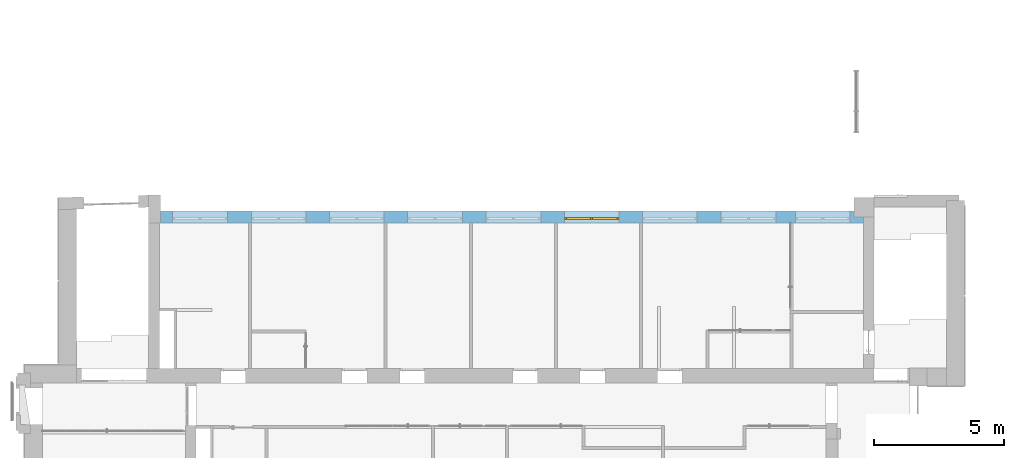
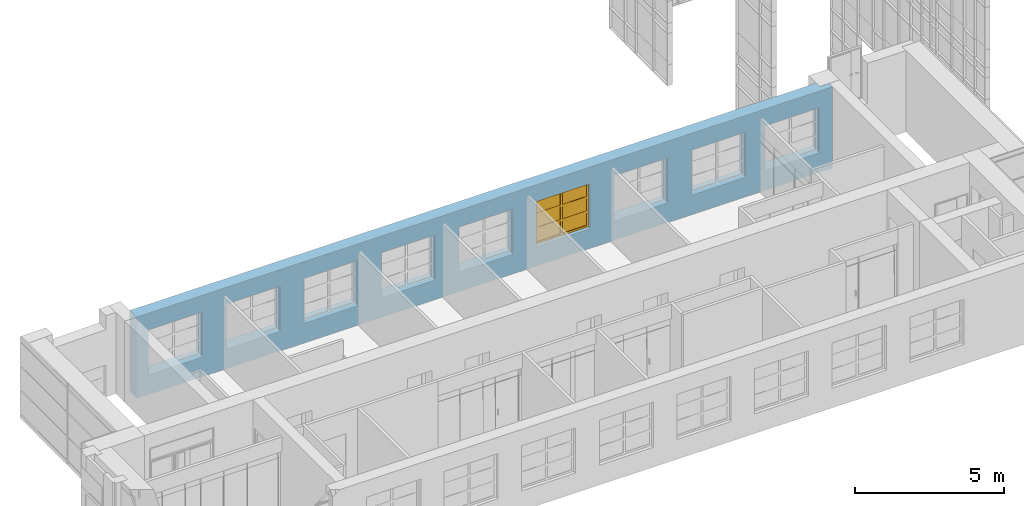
# One storey, part 64 of 73: 1 window, 9 openings, plus 1 element that does not belong to this part.
"""IFC2X3 building model written with IfcOpenShell, lengths in millimetres."""

from ifc_helpers import new_model, entity, si_unit, converted_unit, derived_unit, direction, frame, frame_2d, origin, origin_2d_with_axis, place, context, subcontext, project, spatial, polyline, rectangle, outline, extrude, face_set, surface_model, source, transform, mapped, material, material_list, layer, layer_set, layer_usage, type_object, type_shapes, element, fill, save


model = new_model("IFC2X3")

# Units and contexts
model_context = context("Model", 3, precision=0.01, world=origin(), true_north=direction((6.12303176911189e-17, 1.0)))
body_context = subcontext(model_context, "Body", "Model", "MODEL_VIEW")
ifc_project = project(units=[si_unit("LENGTHUNIT", "METRE", prefix="MILLI"), si_unit("AREAUNIT", "SQUARE_METRE"), si_unit("VOLUMEUNIT", "CUBIC_METRE"), converted_unit("PLANEANGLEUNIT", "DEGREE", entity("IfcRatioMeasure", 0.0174532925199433), si_unit("PLANEANGLEUNIT", "RADIAN"), dimensions=[0, 0, 0, 0, 0, 0, 0]), si_unit("MASSUNIT", "GRAM", prefix="KILO"), derived_unit("MASSDENSITYUNIT", [(si_unit("MASSUNIT", "GRAM", prefix="KILO"), 1), (si_unit("LENGTHUNIT", "METRE"), -3)]), si_unit("TIMEUNIT", "SECOND"), si_unit("FREQUENCYUNIT", "HERTZ"), si_unit("THERMODYNAMICTEMPERATUREUNIT", "DEGREE_CELSIUS"), derived_unit("THERMALTRANSMITTANCEUNIT", [(si_unit("MASSUNIT", "GRAM", prefix="KILO"), 1), (si_unit("THERMODYNAMICTEMPERATUREUNIT", "KELVIN"), -1), (si_unit("TIMEUNIT", "SECOND"), -3)]), derived_unit("VOLUMETRICFLOWRATEUNIT", [(si_unit("LENGTHUNIT", "METRE"), 3), (si_unit("TIMEUNIT", "SECOND"), -1)]), si_unit("ELECTRICCURRENTUNIT", "AMPERE"), si_unit("ELECTRICVOLTAGEUNIT", "VOLT"), si_unit("POWERUNIT", "WATT"), si_unit("FORCEUNIT", "NEWTON", prefix="KILO"), si_unit("ILLUMINANCEUNIT", "LUX"), si_unit("LUMINOUSFLUXUNIT", "LUMEN"), si_unit("LUMINOUSINTENSITYUNIT", "CANDELA"), derived_unit("USERDEFINED", [(si_unit("MASSUNIT", "GRAM", prefix="KILO"), -1), (si_unit("LENGTHUNIT", "METRE"), -2), (si_unit("TIMEUNIT", "SECOND"), 3), (si_unit("LUMINOUSFLUXUNIT", "LUMEN"), 1)]), derived_unit("LINEARVELOCITYUNIT", [(si_unit("LENGTHUNIT", "METRE"), 1), (si_unit("TIMEUNIT", "SECOND"), -1)]), si_unit("PRESSUREUNIT", "PASCAL"), derived_unit("USERDEFINED", [(si_unit("LENGTHUNIT", "METRE"), -2), (si_unit("MASSUNIT", "GRAM", prefix="KILO"), 1), (si_unit("TIMEUNIT", "SECOND"), -2)])], contexts=[model_context])

# Site, building, storey
site_placement = place(None, frame((-151.875543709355, 2715.0, 0.0)))
site = spatial("IfcSite", under=ifc_project, at=site_placement, Name="Surface", CompositionType="ELEMENT")
building_placement = place(site_placement, origin())
building = spatial("IfcBuilding", under=site, at=building_placement, CompositionType="ELEMENT")
storey_placement = place(building_placement, frame((0.0, 0.0, 6730.43000000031)))
storey = spatial("IfcBuildingStorey", under=building, at=storey_placement, Name="3 korrus", CompositionType="ELEMENT", Elevation=6730.43000000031)

# Wall, openings, window
ifc_material_1 = material(Name="Brick, Common")
ifc_layer_1 = layer(ifc_material_1, 440.0)
ifc_material_2 = material(Name="__Kips GN13_tava")
ifc_layer_2 = layer(ifc_material_2, 20.0)
ifc_layer_set = layer_set([ifc_layer_1, ifc_layer_2], Name="Basic Wall:VS-1")
ifc_layer_usage = layer_usage(ifc_layer_set, "AXIS2", "POSITIVE", -230.0)
wall_type = type_object("IfcWallType", Name="Basic Wall:VS-1", PredefinedType="STANDARD", material=ifc_layer_set)
wall_placement = place(storey_placement, frame((31972.6162682, 12380.0, 0.00203353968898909), z_axis=(0.0, 0.0, 1.0), x_axis=(-1.0, 0.0, 0.0)))
wall = element("IfcWallStandardCase", 1, at=wall_placement, inside=storey, type_object=wall_type, material=ifc_layer_usage, Name="SEIN - 005", ObjectType="Basic Wall:VS-1", context=body_context, shape_type="SweptSolid", body=[
    extrude(outline(polyline([(26972.5418693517, -230.0), (26972.5418693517, 230.0), (0.0, 230.0), (0.0, 0.0), (370.0, 0.0), (370.0, -230.0), (26972.5418693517, -230.0)])), origin(), (0.0, 0.0, 1.0), 3329.56796646),
])
opening_1_placement = place(wall_placement, frame((31972.6162682, 12380.0, -0.00203353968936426), z_axis=(0.0, 0.0, 1.0), x_axis=(-1.0, 0.0, 0.0)))
element("IfcOpeningElement", 2, at=opening_1_placement, cuts=wall, Name="SEIN - 005", ObjectType="Opening", context=body_context, shape_type="SweptSolid", body=[
    extrude(rectangle(XDim=1850.0, YDim=2100.0, at=frame_2d((0.0, -5.6843418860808e-13), x_axis=(1.0, 0.0))), frame((6512.84934801, 13077.9, 1725.00203353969), z_axis=(0.0, -1.0, 0.0), x_axis=(0.0, 0.0, 1.0)), (0.0, 0.0, 1.0), 1393.8),
])
opening_2_placement = place(wall_placement, frame((31972.6162682, 12380.0, -0.00203353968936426), z_axis=(0.0, 0.0, 1.0), x_axis=(-1.0, 0.0, 0.0)))
element("IfcOpeningElement", 3, at=opening_2_placement, cuts=wall, Name="SEIN - 005", ObjectType="Opening", context=body_context, shape_type="SweptSolid", body=[
    extrude(rectangle(XDim=1850.0, YDim=2100.0, at=origin_2d_with_axis()), frame((9532.84934801, 13077.9, 1725.00203353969), z_axis=(0.0, -1.0, 0.0), x_axis=(0.0, 0.0, 1.0)), (0.0, 0.0, 1.0), 1393.8),
])
opening_3_placement = place(wall_placement, frame((31972.6162682, 12380.0, -0.00203353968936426), z_axis=(0.0, 0.0, 1.0), x_axis=(-1.0, 0.0, 0.0)))
element("IfcOpeningElement", 4, at=opening_3_placement, cuts=wall, Name="SEIN - 005", ObjectType="Opening", context=body_context, shape_type="SweptSolid", body=[
    extrude(rectangle(XDim=1850.0, YDim=2100.0, at=frame_2d((0.0, -1.02318153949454e-12), x_axis=(1.0, 0.0))), frame((12532.84934801, 13077.9, 1725.00203353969), z_axis=(0.0, -1.0, 0.0), x_axis=(0.0, 0.0, 1.0)), (0.0, 0.0, 1.0), 1393.8),
])
opening_4_placement = place(wall_placement, frame((31972.6162682, 12380.0, -0.00203353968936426), z_axis=(0.0, 0.0, 1.0), x_axis=(-1.0, 0.0, 0.0)))
element("IfcOpeningElement", 5, at=opening_4_placement, cuts=wall, Name="SEIN - 005", ObjectType="Opening", context=body_context, shape_type="SweptSolid", body=[
    extrude(rectangle(XDim=1850.0, YDim=2100.0, at=origin_2d_with_axis()), frame((15532.849348, 13077.9, 1725.00203353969), z_axis=(0.0, -1.0, 0.0), x_axis=(0.0, 0.0, 1.0)), (0.0, 0.0, 1.0), 1393.8),
])
opening_5_placement = place(wall_placement, frame((31972.6162682, 12380.0, -0.00203353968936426), z_axis=(0.0, 0.0, 1.0), x_axis=(-1.0, 0.0, 0.0)))
element("IfcOpeningElement", 6, at=opening_5_placement, cuts=wall, Name="SEIN - 005", ObjectType="Opening", context=body_context, shape_type="SweptSolid", body=[
    extrude(rectangle(XDim=1850.0, YDim=2100.0, at=origin_2d_with_axis()), frame((18542.849348, 13077.9, 1725.00203353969), z_axis=(0.0, -1.0, 0.0), x_axis=(0.0, 0.0, 1.0)), (0.0, 0.0, 1.0), 1393.8),
])
opening_6_placement = place(wall_placement, frame((31972.6162682, 12380.0, -0.00203353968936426), z_axis=(0.0, 0.0, 1.0), x_axis=(-1.0, 0.0, 0.0)))
opening_6 = element("IfcOpeningElement", 7, at=opening_6_placement, cuts=wall, Name="SEIN - 005", ObjectType="Opening", context=body_context, shape_type="SweptSolid", body=[
    extrude(rectangle(XDim=1850.0, YDim=2100.0, at=origin_2d_with_axis()), frame((21543.0530903, 13077.9, 1725.00203353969), z_axis=(0.0, -1.0, 0.0), x_axis=(0.0, 0.0, 1.0)), (0.0, 0.0, 1.0), 1393.8),
])
opening_7_placement = place(wall_placement, frame((31972.6162682, 12380.0, -0.00203353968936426), z_axis=(0.0, 0.0, 1.0), x_axis=(-1.0, 0.0, 0.0)))
element("IfcOpeningElement", 8, at=opening_7_placement, cuts=wall, Name="SEIN - 005", ObjectType="Opening", context=body_context, shape_type="SweptSolid", body=[
    extrude(rectangle(XDim=1850.0, YDim=2100.0, at=origin_2d_with_axis()), frame((24543.0530903, 13077.9, 1725.00203353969), z_axis=(0.0, -1.0, 0.0), x_axis=(0.0, 0.0, 1.0)), (0.0, 0.0, 1.0), 1393.8),
])
opening_8_placement = place(wall_placement, frame((31972.6162682, 12380.0, -0.00203353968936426), z_axis=(0.0, 0.0, 1.0), x_axis=(-1.0, 0.0, 0.0)))
element("IfcOpeningElement", 9, at=opening_8_placement, cuts=wall, Name="SEIN - 005", ObjectType="Opening", context=body_context, shape_type="SweptSolid", body=[
    extrude(rectangle(XDim=1850.0, YDim=2100.0, at=origin_2d_with_axis()), frame((27563.0530903, 13077.9, 1725.00203353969), z_axis=(0.0, -1.0, 0.0), x_axis=(0.0, 0.0, 1.0)), (0.0, 0.0, 1.0), 1393.8),
])
opening_9_placement = place(wall_placement, frame((31972.6162682, 12380.0, -0.00203353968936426), z_axis=(0.0, 0.0, 1.0), x_axis=(-1.0, 0.0, 0.0)))
element("IfcOpeningElement", 10, at=opening_9_placement, cuts=wall, Name="SEIN - 005", ObjectType="Opening", context=body_context, shape_type="SweptSolid", body=[
    extrude(rectangle(XDim=1850.0, YDim=2100.0, at=origin_2d_with_axis()), frame((30412.5729235, 13077.9, 1725.00203353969), z_axis=(0.0, -1.0, 0.0), x_axis=(0.0, 0.0, 1.0)), (0.0, 0.0, 1.0), 1393.8),
])
ifc_material_3 = material(Name="Paint - Titanium White")
ifc_material_4 = material(Name="Paint - Dark Gray")
ifc_material_5 = material(Name="Glass - Clear Fast")
ifc_material_list_1 = material_list([ifc_material_3, ifc_material_4, ifc_material_5])
ifc_material_list_2 = material_list([ifc_material_3, ifc_material_4, ifc_material_5])
window_style = type_object("IfcWindowStyle", Name="Aken_1850x2100", ConstructionType="NOTDEFINED", OperationType="DOUBLE_PANEL_VERTICAL", ParameterTakesPrecedence=False, Sizeable=False, material=ifc_material_list_2)
shared_shape = source(origin(), body_context, "Body", "SurfaceModel", [
    surface_model("IfcFaceBasedSurfaceModel", [(80.0, -665.9, 1770.0), (80.0, -620.9, 1770.0), (0.0, -620.9, 1770.0), (0.0, -665.9, 1770.0), (80.0, -665.9, 80.0), (80.0, -620.9, 80.0), (80.0, -620.9, 1770.0), (80.0, -665.9, 1770.0), (80.0, -620.9, 1770.0), (80.0, -620.9, 80.0), (0.0, -620.9, 80.0), (0.0, -620.9, 1770.0), (0.0, -665.9, 1770.0), (0.0, -620.9, 1770.0), (0.0, -620.9, 80.0), (0.0, -665.9, 80.0), (80.0, -665.9, 1770.0), (0.0, -665.9, 1770.0), (0.0, -665.9, 80.0), (80.0, -665.9, 80.0), (0.0, -665.9, 80.0), (0.0, -620.9, 80.0), (80.0, -620.9, 80.0), (80.0, -665.9, 80.0), (2020.0, -665.9, 80.0), (2020.0, -620.9, 80.0), (2100.0, -620.9, 80.0), (2100.0, -665.9, 80.0), (2020.0, -665.9, 1770.0), (2020.0, -620.9, 1770.0), (2020.0, -620.9, 80.0), (2020.0, -665.9, 80.0), (2020.0, -620.9, 80.0), (2020.0, -620.9, 1770.0), (2100.0, -620.9, 1770.0), (2100.0, -620.9, 80.0), (2100.0, -665.9, 80.0), (2100.0, -620.9, 80.0), (2100.0, -620.9, 1770.0), (2100.0, -665.9, 1770.0), (2020.0, -665.9, 80.0), (2100.0, -665.9, 80.0), (2100.0, -665.9, 1770.0), (2020.0, -665.9, 1770.0), (2100.0, -665.9, 1770.0), (2100.0, -620.9, 1770.0), (2020.0, -620.9, 1770.0), (2020.0, -665.9, 1770.0), (1010.0, -665.9, 80.0), (1010.0, -620.9, 80.0), (1090.0, -620.9, 80.0), (1090.0, -665.9, 80.0), (1010.0, -665.9, 1770.0), (1010.0, -620.9, 1770.0), (1010.0, -620.9, 80.0), (1010.0, -665.9, 80.0), (1010.0, -620.9, 80.0), (1010.0, -620.9, 1770.0), (1090.0, -620.9, 1770.0), (1090.0, -620.9, 80.0), (1090.0, -665.9, 80.0), (1090.0, -620.9, 80.0), (1090.0, -620.9, 1770.0), (1090.0, -665.9, 1770.0), (1010.0, -665.9, 80.0), (1090.0, -665.9, 80.0), (1090.0, -665.9, 1770.0), (1010.0, -665.9, 1770.0), (1090.0, -665.9, 1770.0), (1090.0, -620.9, 1770.0), (1010.0, -620.9, 1770.0), (1010.0, -665.9, 1770.0), (80.0, -665.9, 80.0), (80.0, -620.9, 80.0), (0.0, -620.9, 80.0), (0.0, -665.9, 80.0), (1010.0, -665.9, 80.0), (1010.0, -620.9, 80.0), (80.0, -620.9, 80.0), (80.0, -665.9, 80.0), (80.0, -620.9, 80.0), (1010.0, -620.9, 80.0), (1090.0, -620.9, 80.0), (2020.0, -620.9, 80.0), (2100.0, -620.9, 80.0), (2100.0, -620.9, 0.0), (0.0, -620.9, 0.0), (0.0, -620.9, 80.0), (0.0, -665.9, 80.0), (0.0, -620.9, 80.0), (0.0, -620.9, 0.0), (0.0, -665.9, 0.0), (80.0, -665.9, 80.0), (0.0, -665.9, 80.0), (0.0, -665.9, 0.0), (2100.0, -665.9, 0.0), (2100.0, -665.9, 80.0), (2020.0, -665.9, 80.0), (1090.0, -665.9, 80.0), (1010.0, -665.9, 80.0), (1090.0, -665.9, 80.0), (1090.0, -620.9, 80.0), (1010.0, -620.9, 80.0), (1010.0, -665.9, 80.0), (2020.0, -665.9, 80.0), (2020.0, -620.9, 80.0), (1090.0, -620.9, 80.0), (1090.0, -665.9, 80.0), (2100.0, -665.9, 80.0), (2100.0, -620.9, 80.0), (2020.0, -620.9, 80.0), (2020.0, -665.9, 80.0), (2100.0, -665.9, 0.0), (2100.0, -620.9, 0.0), (2100.0, -620.9, 80.0), (2100.0, -665.9, 80.0), (0.0, -665.9, 0.0), (0.0, -620.9, 0.0), (2100.0, -620.9, 0.0), (2100.0, -665.9, 0.0), (1010.0, -665.9, 1770.0), (1010.0, -620.9, 1770.0), (1090.0, -620.9, 1770.0), (1090.0, -665.9, 1770.0), (80.0, -665.9, 1770.0), (80.0, -620.9, 1770.0), (1010.0, -620.9, 1770.0), (1010.0, -665.9, 1770.0), (1010.0, -620.9, 1770.0), (80.0, -620.9, 1770.0), (0.0, -620.9, 1770.0), (0.0, -620.9, 1850.0), (2100.0, -620.9, 1850.0), (2100.0, -620.9, 1770.0), (2020.0, -620.9, 1770.0), (1090.0, -620.9, 1770.0), (1090.0, -665.9, 1770.0), (1090.0, -620.9, 1770.0), (2020.0, -620.9, 1770.0), (2020.0, -665.9, 1770.0), (1010.0, -665.9, 1770.0), (1090.0, -665.9, 1770.0), (2020.0, -665.9, 1770.0), (2100.0, -665.9, 1770.0), (2100.0, -665.9, 1850.0), (0.0, -665.9, 1850.0), (0.0, -665.9, 1770.0), (80.0, -665.9, 1770.0), (0.0, -665.9, 1770.0), (0.0, -620.9, 1770.0), (80.0, -620.9, 1770.0), (80.0, -665.9, 1770.0), (0.0, -665.9, 1850.0), (0.0, -620.9, 1850.0), (0.0, -620.9, 1770.0), (0.0, -665.9, 1770.0), (2100.0, -665.9, 1850.0), (2100.0, -620.9, 1850.0), (0.0, -620.9, 1850.0), (0.0, -665.9, 1850.0), (2100.0, -665.9, 1770.0), (2100.0, -620.9, 1770.0), (2100.0, -620.9, 1850.0), (2100.0, -665.9, 1850.0), (2020.0, -665.9, 1770.0), (2020.0, -620.9, 1770.0), (2100.0, -620.9, 1770.0), (2100.0, -665.9, 1770.0), (80.0, -640.9, 590.0), (80.0, -630.9, 590.0), (1010.0, -630.9, 590.0), (1010.0, -640.9, 590.0), (80.0, -640.9, 670.0), (80.0, -630.9, 670.0), (80.0, -630.9, 590.0), (80.0, -640.9, 590.0), (80.0, -630.9, 590.0), (80.0, -630.9, 670.0), (1010.0, -630.9, 670.0), (1010.0, -630.9, 590.0), (1010.0, -640.9, 590.0), (1010.0, -630.9, 590.0), (1010.0, -630.9, 670.0), (1010.0, -640.9, 670.0), (80.0, -640.9, 590.0), (1010.0, -640.9, 590.0), (1010.0, -640.9, 670.0), (80.0, -640.9, 670.0), (1010.0, -640.9, 670.0), (1010.0, -630.9, 670.0), (80.0, -630.9, 670.0), (80.0, -640.9, 670.0), (80.0, -640.9, 1180.0), (80.0, -630.9, 1180.0), (1010.0, -630.9, 1180.0), (1010.0, -640.9, 1180.0), (80.0, -640.9, 1260.0), (80.0, -630.9, 1260.0), (80.0, -630.9, 1180.0), (80.0, -640.9, 1180.0), (80.0, -630.9, 1180.0), (80.0, -630.9, 1260.0), (1010.0, -630.9, 1260.0), (1010.0, -630.9, 1180.0), (1010.0, -640.9, 1180.0), (1010.0, -630.9, 1180.0), (1010.0, -630.9, 1260.0), (1010.0, -640.9, 1260.0), (80.0, -640.9, 1180.0), (1010.0, -640.9, 1180.0), (1010.0, -640.9, 1260.0), (80.0, -640.9, 1260.0), (1010.0, -640.9, 1260.0), (1010.0, -630.9, 1260.0), (80.0, -630.9, 1260.0), (80.0, -640.9, 1260.0), (1090.0, -640.9, 590.0), (1090.0, -630.9, 590.0), (2020.0, -630.9, 590.0), (2020.0, -640.9, 590.0), (1090.0, -640.9, 670.0), (1090.0, -630.9, 670.0), (1090.0, -630.9, 590.0), (1090.0, -640.9, 590.0), (1090.0, -630.9, 590.0), (1090.0, -630.9, 670.0), (2020.0, -630.9, 670.0), (2020.0, -630.9, 590.0), (2020.0, -640.9, 590.0), (2020.0, -630.9, 590.0), (2020.0, -630.9, 670.0), (2020.0, -640.9, 670.0), (1090.0, -640.9, 590.0), (2020.0, -640.9, 590.0), (2020.0, -640.9, 670.0), (1090.0, -640.9, 670.0), (2020.0, -640.9, 670.0), (2020.0, -630.9, 670.0), (1090.0, -630.9, 670.0), (1090.0, -640.9, 670.0), (1090.0, -640.9, 1180.0), (1090.0, -630.9, 1180.0), (2020.0, -630.9, 1180.0), (2020.0, -640.9, 1180.0), (1090.0, -640.9, 1260.0), (1090.0, -630.9, 1260.0), (1090.0, -630.9, 1180.0), (1090.0, -640.9, 1180.0), (1090.0, -630.9, 1180.0), (1090.0, -630.9, 1260.0), (2020.0, -630.9, 1260.0), (2020.0, -630.9, 1180.0), (2020.0, -640.9, 1180.0), (2020.0, -630.9, 1180.0), (2020.0, -630.9, 1260.0), (2020.0, -640.9, 1260.0), (1090.0, -640.9, 1180.0), (2020.0, -640.9, 1180.0), (2020.0, -640.9, 1260.0), (1090.0, -640.9, 1260.0), (2020.0, -640.9, 1260.0), (2020.0, -630.9, 1260.0), (1090.0, -630.9, 1260.0), (1090.0, -640.9, 1260.0)], [face_set([[[0, 1, 2, 3]]]), face_set([[[4, 5, 6, 7]]]), face_set([[[8, 9, 10, 11]]]), face_set([[[12, 13, 14, 15]]]), face_set([[[16, 17, 18, 19]]]), face_set([[[20, 21, 22, 23]]]), face_set([[[24, 25, 26, 27]]]), face_set([[[28, 29, 30, 31]]]), face_set([[[32, 33, 34, 35]]]), face_set([[[36, 37, 38, 39]]]), face_set([[[40, 41, 42, 43]]]), face_set([[[44, 45, 46, 47]]]), face_set([[[48, 49, 50, 51]]]), face_set([[[52, 53, 54, 55]]]), face_set([[[56, 57, 58, 59]]]), face_set([[[60, 61, 62, 63]]]), face_set([[[64, 65, 66, 67]]]), face_set([[[68, 69, 70, 71]]]), face_set([[[72, 73, 74, 75]]]), face_set([[[76, 77, 78, 79]]]), face_set([[[80, 81, 82, 83, 84, 85, 86, 87]]]), face_set([[[88, 89, 90, 91]]]), face_set([[[92, 93, 94, 95, 96, 97, 98, 99]]]), face_set([[[100, 101, 102, 103]]]), face_set([[[104, 105, 106, 107]]]), face_set([[[108, 109, 110, 111]]]), face_set([[[112, 113, 114, 115]]]), face_set([[[116, 117, 118, 119]]]), face_set([[[120, 121, 122, 123]]]), face_set([[[124, 125, 126, 127]]]), face_set([[[128, 129, 130, 131, 132, 133, 134, 135]]]), face_set([[[136, 137, 138, 139]]]), face_set([[[140, 141, 142, 143, 144, 145, 146, 147]]]), face_set([[[148, 149, 150, 151]]]), face_set([[[152, 153, 154, 155]]]), face_set([[[156, 157, 158, 159]]]), face_set([[[160, 161, 162, 163]]]), face_set([[[164, 165, 166, 167]]]), face_set([[[168, 169, 170, 171]]]), face_set([[[172, 173, 174, 175]]]), face_set([[[176, 177, 178, 179]]]), face_set([[[180, 181, 182, 183]]]), face_set([[[184, 185, 186, 187]]]), face_set([[[188, 189, 190, 191]]]), face_set([[[192, 193, 194, 195]]]), face_set([[[196, 197, 198, 199]]]), face_set([[[200, 201, 202, 203]]]), face_set([[[204, 205, 206, 207]]]), face_set([[[208, 209, 210, 211]]]), face_set([[[212, 213, 214, 215]]]), face_set([[[216, 217, 218, 219]]]), face_set([[[220, 221, 222, 223]]]), face_set([[[224, 225, 226, 227]]]), face_set([[[228, 229, 230, 231]]]), face_set([[[232, 233, 234, 235]]]), face_set([[[236, 237, 238, 239]]]), face_set([[[240, 241, 242, 243]]]), face_set([[[244, 245, 246, 247]]]), face_set([[[248, 249, 250, 251]]]), face_set([[[252, 253, 254, 255]]]), face_set([[[256, 257, 258, 259]]]), face_set([[[260, 261, 262, 263]]])]),
    surface_model("IfcFaceBasedSurfaceModel", [(80.0, -620.9, 1770.0), (80.0, -595.9, 1770.0), (0.0, -595.9, 1770.0), (0.0, -620.9, 1770.0), (80.0, -620.9, 80.0), (80.0, -595.9, 80.0), (80.0, -595.9, 1770.0), (80.0, -620.9, 1770.0), (80.0, -595.9, 1770.0), (80.0, -595.9, 80.0), (0.0, -595.9, 80.0), (0.0, -595.9, 1770.0), (0.0, -620.9, 1770.0), (0.0, -595.9, 1770.0), (0.0, -595.9, 80.0), (0.0, -620.9, 80.0), (80.0, -620.9, 1770.0), (0.0, -620.9, 1770.0), (0.0, -620.9, 80.0), (80.0, -620.9, 80.0), (0.0, -620.9, 80.0), (0.0, -595.9, 80.0), (80.0, -595.9, 80.0), (80.0, -620.9, 80.0), (2020.0, -620.9, 80.0), (2020.0, -595.9, 80.0), (2100.0, -595.9, 80.0), (2100.0, -620.9, 80.0), (2020.0, -620.9, 1770.0), (2020.0, -595.9, 1770.0), (2020.0, -595.9, 80.0), (2020.0, -620.9, 80.0), (2020.0, -595.9, 80.0), (2020.0, -595.9, 1770.0), (2100.0, -595.9, 1770.0), (2100.0, -595.9, 80.0), (2100.0, -620.9, 80.0), (2100.0, -595.9, 80.0), (2100.0, -595.9, 1770.0), (2100.0, -620.9, 1770.0), (2020.0, -620.9, 80.0), (2100.0, -620.9, 80.0), (2100.0, -620.9, 1770.0), (2020.0, -620.9, 1770.0), (2100.0, -620.9, 1770.0), (2100.0, -595.9, 1770.0), (2020.0, -595.9, 1770.0), (2020.0, -620.9, 1770.0), (1010.0, -620.9, 80.0), (1010.0, -595.9, 80.0), (1090.0, -595.9, 80.0), (1090.0, -620.9, 80.0), (1010.0, -620.9, 1770.0), (1010.0, -595.9, 1770.0), (1010.0, -595.9, 80.0), (1010.0, -620.9, 80.0), (1010.0, -595.9, 80.0), (1010.0, -595.9, 1770.0), (1090.0, -595.9, 1770.0), (1090.0, -595.9, 80.0), (1090.0, -620.9, 80.0), (1090.0, -595.9, 80.0), (1090.0, -595.9, 1770.0), (1090.0, -620.9, 1770.0), (1010.0, -620.9, 80.0), (1090.0, -620.9, 80.0), (1090.0, -620.9, 1770.0), (1010.0, -620.9, 1770.0), (1090.0, -620.9, 1770.0), (1090.0, -595.9, 1770.0), (1010.0, -595.9, 1770.0), (1010.0, -620.9, 1770.0), (80.0, -620.9, 80.0), (80.0, -595.9, 80.0), (0.0, -595.9, 80.0), (0.0, -620.9, 80.0), (1010.0, -620.9, 80.0), (1010.0, -595.9, 80.0), (80.0, -595.9, 80.0), (80.0, -620.9, 80.0), (80.0, -595.9, 80.0), (1010.0, -595.9, 80.0), (1090.0, -595.9, 80.0), (2020.0, -595.9, 80.0), (2100.0, -595.9, 80.0), (2100.0, -595.9, 0.0), (0.0, -595.9, 0.0), (0.0, -595.9, 80.0), (0.0, -620.9, 80.0), (0.0, -595.9, 80.0), (0.0, -595.9, 0.0), (0.0, -620.9, 0.0), (80.0, -620.9, 80.0), (0.0, -620.9, 80.0), (0.0, -620.9, 0.0), (2100.0, -620.9, 0.0), (2100.0, -620.9, 80.0), (2020.0, -620.9, 80.0), (1090.0, -620.9, 80.0), (1010.0, -620.9, 80.0), (1090.0, -620.9, 80.0), (1090.0, -595.9, 80.0), (1010.0, -595.9, 80.0), (1010.0, -620.9, 80.0), (2020.0, -620.9, 80.0), (2020.0, -595.9, 80.0), (1090.0, -595.9, 80.0), (1090.0, -620.9, 80.0), (2100.0, -620.9, 80.0), (2100.0, -595.9, 80.0), (2020.0, -595.9, 80.0), (2020.0, -620.9, 80.0), (2100.0, -620.9, 0.0), (2100.0, -595.9, 0.0), (2100.0, -595.9, 80.0), (2100.0, -620.9, 80.0), (0.0, -620.9, 0.0), (0.0, -595.9, 0.0), (2100.0, -595.9, 0.0), (2100.0, -620.9, 0.0), (1010.0, -620.9, 1770.0), (1010.0, -595.9, 1770.0), (1090.0, -595.9, 1770.0), (1090.0, -620.9, 1770.0), (80.0, -620.9, 1770.0), (80.0, -595.9, 1770.0), (1010.0, -595.9, 1770.0), (1010.0, -620.9, 1770.0), (1010.0, -595.9, 1770.0), (80.0, -595.9, 1770.0), (0.0, -595.9, 1770.0), (0.0, -595.9, 1850.0), (2100.0, -595.9, 1850.0), (2100.0, -595.9, 1770.0), (2020.0, -595.9, 1770.0), (1090.0, -595.9, 1770.0), (1090.0, -620.9, 1770.0), (1090.0, -595.9, 1770.0), (2020.0, -595.9, 1770.0), (2020.0, -620.9, 1770.0), (1010.0, -620.9, 1770.0), (1090.0, -620.9, 1770.0), (2020.0, -620.9, 1770.0), (2100.0, -620.9, 1770.0), (2100.0, -620.9, 1850.0), (0.0, -620.9, 1850.0), (0.0, -620.9, 1770.0), (80.0, -620.9, 1770.0), (0.0, -620.9, 1770.0), (0.0, -595.9, 1770.0), (80.0, -595.9, 1770.0), (80.0, -620.9, 1770.0), (0.0, -620.9, 1850.0), (0.0, -595.9, 1850.0), (0.0, -595.9, 1770.0), (0.0, -620.9, 1770.0), (2100.0, -620.9, 1850.0), (2100.0, -595.9, 1850.0), (0.0, -595.9, 1850.0), (0.0, -620.9, 1850.0), (2100.0, -620.9, 1770.0), (2100.0, -595.9, 1770.0), (2100.0, -595.9, 1850.0), (2100.0, -620.9, 1850.0), (2020.0, -620.9, 1770.0), (2020.0, -595.9, 1770.0), (2100.0, -595.9, 1770.0), (2100.0, -620.9, 1770.0), (80.0, -630.9, 590.0), (80.0, -600.9, 590.0), (1010.0, -600.9, 590.0), (1010.0, -630.9, 590.0), (80.0, -630.9, 670.0), (80.0, -600.9, 670.0), (80.0, -600.9, 590.0), (80.0, -630.9, 590.0), (80.0, -600.9, 590.0), (80.0, -600.9, 670.0), (1010.0, -600.9, 670.0), (1010.0, -600.9, 590.0), (1010.0, -630.9, 590.0), (1010.0, -600.9, 590.0), (1010.0, -600.9, 670.0), (1010.0, -630.9, 670.0), (80.0, -630.9, 590.0), (1010.0, -630.9, 590.0), (1010.0, -630.9, 670.0), (80.0, -630.9, 670.0), (1010.0, -630.9, 670.0), (1010.0, -600.9, 670.0), (80.0, -600.9, 670.0), (80.0, -630.9, 670.0), (80.0, -630.9, 1180.0), (80.0, -600.9, 1180.0), (1010.0, -600.9, 1180.0), (1010.0, -630.9, 1180.0), (80.0, -630.9, 1260.0), (80.0, -600.9, 1260.0), (80.0, -600.9, 1180.0), (80.0, -630.9, 1180.0), (80.0, -600.9, 1180.0), (80.0, -600.9, 1260.0), (1010.0, -600.9, 1260.0), (1010.0, -600.9, 1180.0), (1010.0, -630.9, 1180.0), (1010.0, -600.9, 1180.0), (1010.0, -600.9, 1260.0), (1010.0, -630.9, 1260.0), (80.0, -630.9, 1180.0), (1010.0, -630.9, 1180.0), (1010.0, -630.9, 1260.0), (80.0, -630.9, 1260.0), (1010.0, -630.9, 1260.0), (1010.0, -600.9, 1260.0), (80.0, -600.9, 1260.0), (80.0, -630.9, 1260.0), (1090.0, -630.9, 590.0), (1090.0, -600.9, 590.0), (2020.0, -600.9, 590.0), (2020.0, -630.9, 590.0), (1090.0, -630.9, 670.0), (1090.0, -600.9, 670.0), (1090.0, -600.9, 590.0), (1090.0, -630.9, 590.0), (1090.0, -600.9, 590.0), (1090.0, -600.9, 670.0), (2020.0, -600.9, 670.0), (2020.0, -600.9, 590.0), (2020.0, -630.9, 590.0), (2020.0, -600.9, 590.0), (2020.0, -600.9, 670.0), (2020.0, -630.9, 670.0), (1090.0, -630.9, 590.0), (2020.0, -630.9, 590.0), (2020.0, -630.9, 670.0), (1090.0, -630.9, 670.0), (2020.0, -630.9, 670.0), (2020.0, -600.9, 670.0), (1090.0, -600.9, 670.0), (1090.0, -630.9, 670.0), (1090.0, -630.9, 1180.0), (1090.0, -600.9, 1180.0), (2020.0, -600.9, 1180.0), (2020.0, -630.9, 1180.0), (1090.0, -630.9, 1260.0), (1090.0, -600.9, 1260.0), (1090.0, -600.9, 1180.0), (1090.0, -630.9, 1180.0), (1090.0, -600.9, 1180.0), (1090.0, -600.9, 1260.0), (2020.0, -600.9, 1260.0), (2020.0, -600.9, 1180.0), (2020.0, -630.9, 1180.0), (2020.0, -600.9, 1180.0), (2020.0, -600.9, 1260.0), (2020.0, -630.9, 1260.0), (1090.0, -630.9, 1180.0), (2020.0, -630.9, 1180.0), (2020.0, -630.9, 1260.0), (1090.0, -630.9, 1260.0), (2020.0, -630.9, 1260.0), (2020.0, -600.9, 1260.0), (1090.0, -600.9, 1260.0), (1090.0, -630.9, 1260.0)], [face_set([[[0, 1, 2, 3]]]), face_set([[[4, 5, 6, 7]]]), face_set([[[8, 9, 10, 11]]]), face_set([[[12, 13, 14, 15]]]), face_set([[[16, 17, 18, 19]]]), face_set([[[20, 21, 22, 23]]]), face_set([[[24, 25, 26, 27]]]), face_set([[[28, 29, 30, 31]]]), face_set([[[32, 33, 34, 35]]]), face_set([[[36, 37, 38, 39]]]), face_set([[[40, 41, 42, 43]]]), face_set([[[44, 45, 46, 47]]]), face_set([[[48, 49, 50, 51]]]), face_set([[[52, 53, 54, 55]]]), face_set([[[56, 57, 58, 59]]]), face_set([[[60, 61, 62, 63]]]), face_set([[[64, 65, 66, 67]]]), face_set([[[68, 69, 70, 71]]]), face_set([[[72, 73, 74, 75]]]), face_set([[[76, 77, 78, 79]]]), face_set([[[80, 81, 82, 83, 84, 85, 86, 87]]]), face_set([[[88, 89, 90, 91]]]), face_set([[[92, 93, 94, 95, 96, 97, 98, 99]]]), face_set([[[100, 101, 102, 103]]]), face_set([[[104, 105, 106, 107]]]), face_set([[[108, 109, 110, 111]]]), face_set([[[112, 113, 114, 115]]]), face_set([[[116, 117, 118, 119]]]), face_set([[[120, 121, 122, 123]]]), face_set([[[124, 125, 126, 127]]]), face_set([[[128, 129, 130, 131, 132, 133, 134, 135]]]), face_set([[[136, 137, 138, 139]]]), face_set([[[140, 141, 142, 143, 144, 145, 146, 147]]]), face_set([[[148, 149, 150, 151]]]), face_set([[[152, 153, 154, 155]]]), face_set([[[156, 157, 158, 159]]]), face_set([[[160, 161, 162, 163]]]), face_set([[[164, 165, 166, 167]]]), face_set([[[168, 169, 170, 171]]]), face_set([[[172, 173, 174, 175]]]), face_set([[[176, 177, 178, 179]]]), face_set([[[180, 181, 182, 183]]]), face_set([[[184, 185, 186, 187]]]), face_set([[[188, 189, 190, 191]]]), face_set([[[192, 193, 194, 195]]]), face_set([[[196, 197, 198, 199]]]), face_set([[[200, 201, 202, 203]]]), face_set([[[204, 205, 206, 207]]]), face_set([[[208, 209, 210, 211]]]), face_set([[[212, 213, 214, 215]]]), face_set([[[216, 217, 218, 219]]]), face_set([[[220, 221, 222, 223]]]), face_set([[[224, 225, 226, 227]]]), face_set([[[228, 229, 230, 231]]]), face_set([[[232, 233, 234, 235]]]), face_set([[[236, 237, 238, 239]]]), face_set([[[240, 241, 242, 243]]]), face_set([[[244, 245, 246, 247]]]), face_set([[[248, 249, 250, 251]]]), face_set([[[252, 253, 254, 255]]]), face_set([[[256, 257, 258, 259]]]), face_set([[[260, 261, 262, 263]]])]),
    surface_model("IfcFaceBasedSurfaceModel", [(1010.0, -630.9, 80.0), (1010.0, -630.9, 590.0), (80.0, -630.9, 590.0), (80.0, -630.9, 80.0), (1010.0, -610.9, 80.0), (80.0, -610.9, 80.0), (80.0, -610.9, 590.0), (1010.0, -610.9, 590.0), (1010.0, -630.9, 670.0), (1010.0, -630.9, 1180.0), (80.0, -630.9, 1180.0), (80.0, -630.9, 670.0), (1010.0, -610.9, 670.0), (80.0, -610.9, 670.0), (80.0, -610.9, 1180.0), (1010.0, -610.9, 1180.0), (1010.0, -630.9, 1260.0), (1010.0, -630.9, 1770.0), (80.0, -630.9, 1770.0), (80.0, -630.9, 1260.0), (1010.0, -610.9, 1260.0), (80.0, -610.9, 1260.0), (80.0, -610.9, 1770.0), (1010.0, -610.9, 1770.0), (2020.0, -630.9, 80.0), (2020.0, -630.9, 590.0), (1090.0, -630.9, 590.0), (1090.0, -630.9, 80.0), (2020.0, -610.9, 80.0), (1090.0, -610.9, 80.0), (1090.0, -610.9, 590.0), (2020.0, -610.9, 590.0), (2020.0, -630.9, 670.0), (2020.0, -630.9, 1180.0), (1090.0, -630.9, 1180.0), (1090.0, -630.9, 670.0), (2020.0, -610.9, 670.0), (1090.0, -610.9, 670.0), (1090.0, -610.9, 1180.0), (2020.0, -610.9, 1180.0), (2020.0, -630.9, 1260.0), (2020.0, -630.9, 1770.0), (1090.0, -630.9, 1770.0), (1090.0, -630.9, 1260.0), (2020.0, -610.9, 1260.0), (1090.0, -610.9, 1260.0), (1090.0, -610.9, 1770.0), (2020.0, -610.9, 1770.0)], [face_set([[[0, 1, 2, 3]]]), face_set([[[4, 5, 6, 7]]]), face_set([[[8, 9, 10, 11]]]), face_set([[[12, 13, 14, 15]]]), face_set([[[16, 17, 18, 19]]]), face_set([[[20, 21, 22, 23]]]), face_set([[[24, 25, 26, 27]]]), face_set([[[28, 29, 30, 31]]]), face_set([[[32, 33, 34, 35]]]), face_set([[[36, 37, 38, 39]]]), face_set([[[40, 41, 42, 43]]]), face_set([[[44, 45, 46, 47]]])]),
])
type_shapes(window_style, [shared_shape])
window_placement = place(opening_6_placement, frame((22593.0530903, 11684.1, 800.002033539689), z_axis=(0.0, 0.0, 1.0), x_axis=(-1.0, 0.0, 0.0)))
window = element("IfcWindow", 11, at=window_placement, inside=storey, type_object=window_style, material=ifc_material_list_1, Name="Aken_1850x2100:Aken_1850x2100", ObjectType="Aken_1850x2100", OverallHeight=2100.0, OverallWidth=1850.0, context=body_context, shape_type="MappedRepresentation", body=[
    mapped(shared_shape, transform((0.0, 0.0, 0.0), scale=1.0)),
])
fill(opening_6, window)

save(model, "model.ifc")
